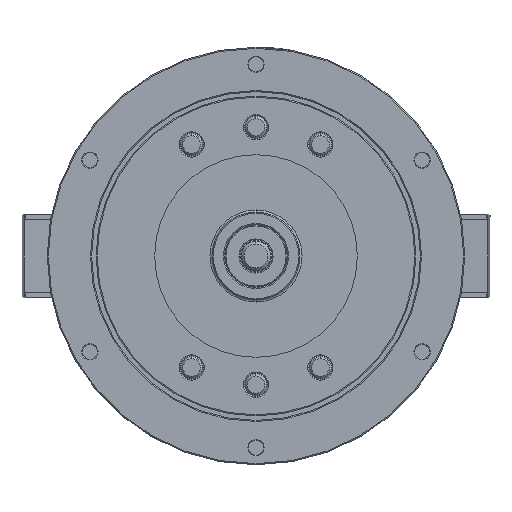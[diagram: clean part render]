
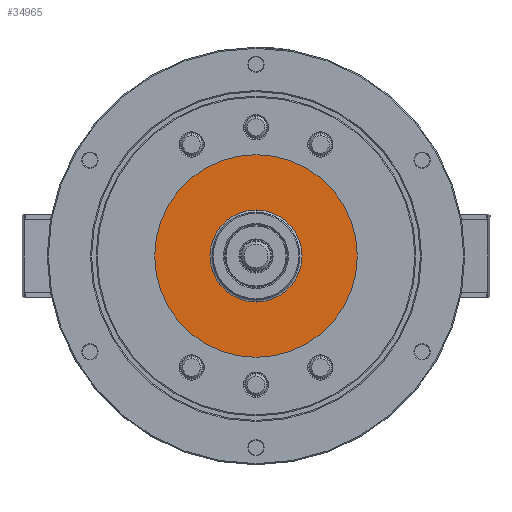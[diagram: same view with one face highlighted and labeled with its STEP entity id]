
A CAD part, left-side view. The second image highlights one B-rep face of the part: STEP entity #34965.
In plain terms, the highlighted planar face has unit normal (-1, 0, 0).
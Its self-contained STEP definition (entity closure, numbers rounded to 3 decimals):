
#9201 = AXIS2_PLACEMENT_3D ( 'NONE', #14877, #40324, #18518 ) ;
#9800 = DIRECTION ( 'NONE',  ( 0., 1., 0. ) ) ;
#9961 = DIRECTION ( 'NONE',  ( 1., 0., 0. ) ) ;
#10258 = CARTESIAN_POINT ( 'NONE',  ( -111.5, -92.5, 0. ) ) ;
#10573 = FACE_OUTER_BOUND ( 'NONE', #45721, .T. ) ;
#11221 = AXIS2_PLACEMENT_3D ( 'NONE', #37376, #37329, #37321 ) ;
#12249 = PLANE ( 'NONE',  #39619 ) ;
#12399 = EDGE_CURVE ( 'NONE', #34881, #33152, #27185, .T. ) ;
#14877 = CARTESIAN_POINT ( 'NONE',  ( -111.5, 0., 0. ) ) ;
#16426 = CARTESIAN_POINT ( 'NONE',  ( -111.5, 0., 0. ) ) ;
#18126 = CARTESIAN_POINT ( 'NONE',  ( -111.5, 0., -42. ) ) ;
#18518 = DIRECTION ( 'NONE',  ( 0., 1., 0. ) ) ;
#19085 = FACE_BOUND ( 'NONE', #36673, .T. ) ;
#20069 = DIRECTION ( 'NONE',  ( 0., 0., -1. ) ) ;
#20826 = AXIS2_PLACEMENT_3D ( 'NONE', #16426, #41840, #20069 ) ;
#21621 = CIRCLE ( 'NONE', #25442, 92.5 ) ;
#25193 = CARTESIAN_POINT ( 'NONE',  ( -111.5, 0., 42. ) ) ;
#25365 = DIRECTION ( 'NONE',  ( 0., 1., 0. ) ) ;
#25426 = DIRECTION ( 'NONE',  ( 1., 0., 0. ) ) ;
#25442 = AXIS2_PLACEMENT_3D ( 'NONE', #25790, #25426, #25365 ) ;
#25790 = CARTESIAN_POINT ( 'NONE',  ( -111.5, 0., 0. ) ) ;
#25820 = CIRCLE ( 'NONE', #20826, 42. ) ;
#27185 = CIRCLE ( 'NONE', #11221, 42. ) ;
#28499 = EDGE_CURVE ( 'NONE', #32171, #30413, #21621, .T. ) ;
#29873 = ORIENTED_EDGE ( 'NONE', *, *, #12399, .F. ) ;
#30413 = VERTEX_POINT ( 'NONE', #32540 ) ;
#32171 = VERTEX_POINT ( 'NONE', #37231 ) ;
#32175 = CIRCLE ( 'NONE', #9201, 92.5 ) ;
#32540 = CARTESIAN_POINT ( 'NONE',  ( -111.5, 92.5, 0. ) ) ;
#33152 = VERTEX_POINT ( 'NONE', #25193 ) ;
#34881 = VERTEX_POINT ( 'NONE', #18126 ) ;
#34965 = ADVANCED_FACE ( 'NONE', ( #19085, #10573 ), #12249, .F. ) ;
#35562 = ORIENTED_EDGE ( 'NONE', *, *, #28499, .F. ) ;
#36673 = EDGE_LOOP ( 'NONE', ( #29873, #37395 ) ) ;
#37231 = CARTESIAN_POINT ( 'NONE',  ( -111.5, -92.5, 0. ) ) ;
#37321 = DIRECTION ( 'NONE',  ( 0., 0., -1. ) ) ;
#37329 = DIRECTION ( 'NONE',  ( -1., 0., 0. ) ) ;
#37376 = CARTESIAN_POINT ( 'NONE',  ( -111.5, 0., 0. ) ) ;
#37395 = ORIENTED_EDGE ( 'NONE', *, *, #45552, .F. ) ;
#39619 = AXIS2_PLACEMENT_3D ( 'NONE', #10258, #9961, #9800 ) ;
#40324 = DIRECTION ( 'NONE',  ( 1., 0., 0. ) ) ;
#41840 = DIRECTION ( 'NONE',  ( -1., 0., 0. ) ) ;
#43785 = EDGE_CURVE ( 'NONE', #30413, #32171, #32175, .T. ) ;
#45552 = EDGE_CURVE ( 'NONE', #33152, #34881, #25820, .T. ) ;
#45721 = EDGE_LOOP ( 'NONE', ( #47045, #35562 ) ) ;
#47045 = ORIENTED_EDGE ( 'NONE', *, *, #43785, .F. ) ;
